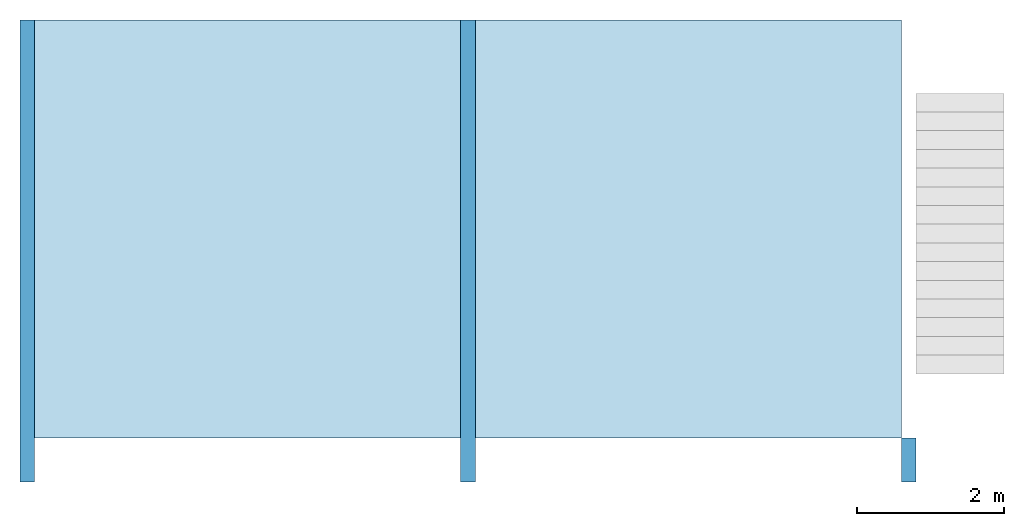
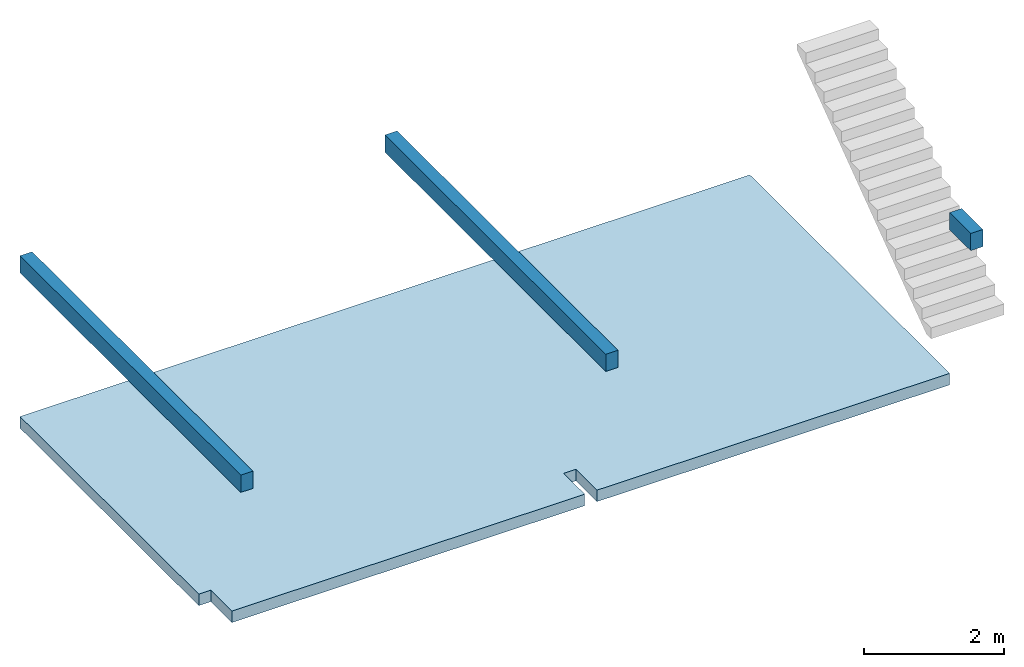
# One storey, part 1 of 2: 3 walls, 1 slab.
"""IFC2X3 building model written with IfcOpenShell, lengths in metres."""

from ifc_helpers import new_model, entity, si_unit, converted_unit, derived_unit, direction, frame, frame_2d, origin, place, context, subcontext, project, spatial, polyline, rectangle, outline, extrude, clip, bounded_halfspace, material, layer, layer_set, layer_usage, type_object, element, save


model = new_model("IFC2X3")

# Units and contexts
model_context = context("Model", 3, precision=1e-05, world=origin(), true_north=direction((6.12303176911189e-17, 1.0)))
context_of_model = context(None, 3, precision=1e-05, world=origin(), true_north=direction((6.12303176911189e-17, 1.0)))
body_context = subcontext(model_context, "Body", "Model", "MODEL_VIEW")
ifc_project = project(units=[si_unit("LENGTHUNIT", "METRE"), si_unit("AREAUNIT", "SQUARE_METRE"), si_unit("VOLUMEUNIT", "CUBIC_METRE"), converted_unit("PLANEANGLEUNIT", "DEGREE", entity("IfcRatioMeasure", 0.0174532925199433), si_unit("PLANEANGLEUNIT", "RADIAN"), dimensions=[0, 0, 0, 0, 0, 0, 0]), si_unit("MASSUNIT", "GRAM", prefix="KILO"), si_unit("TIMEUNIT", "SECOND"), si_unit("FREQUENCYUNIT", "HERTZ"), si_unit("THERMODYNAMICTEMPERATUREUNIT", "DEGREE_CELSIUS"), derived_unit("THERMALTRANSMITTANCEUNIT", [(si_unit("MASSUNIT", "GRAM", prefix="KILO"), 1), (si_unit("THERMODYNAMICTEMPERATUREUNIT", "KELVIN"), -1), (si_unit("TIMEUNIT", "SECOND"), -3)]), derived_unit("VOLUMETRICFLOWRATEUNIT", [(si_unit("LENGTHUNIT", "METRE"), 3), (si_unit("TIMEUNIT", "SECOND"), -1)]), si_unit("ELECTRICCURRENTUNIT", "AMPERE"), si_unit("ELECTRICVOLTAGEUNIT", "VOLT"), si_unit("POWERUNIT", "WATT"), si_unit("FORCEUNIT", "NEWTON", prefix="KILO"), si_unit("ILLUMINANCEUNIT", "LUX"), si_unit("LUMINOUSFLUXUNIT", "LUMEN"), si_unit("LUMINOUSINTENSITYUNIT", "CANDELA"), si_unit("PRESSUREUNIT", "PASCAL")], contexts=[model_context, context_of_model])

# Site, building, storey
site_placement = place(None, origin())
site = spatial("IfcSite", under=ifc_project, at=site_placement, Name="Default", CompositionType="ELEMENT")
building_placement = place(site_placement, origin())
building = spatial("IfcBuilding", under=site, at=building_placement, CompositionType="ELEMENT")
storey_placement = place(building_placement, origin())
storey = spatial("IfcBuildingStorey", under=building, at=storey_placement, Name="3 - Sous sol", CompositionType="ELEMENT", Elevation=0.0)

# Slab
ifc_material_1 = material(Name="Maçonnerie - Béton")
ifc_layer_1 = layer(ifc_material_1, 0.2)
ifc_layer_set_1 = layer_set([ifc_layer_1], Name="Sol:Dalle en béton - 200 mm")
ifc_layer_usage_1 = layer_usage(ifc_layer_set_1, "AXIS3", "POSITIVE", 0.0)
slab_placement = place(storey_placement, origin())
element("IfcSlab", 1, at=slab_placement, inside=storey, material=ifc_layer_usage_1, Name="Sol:Dalle en béton - 200 mm", ObjectType="Sol:Dalle en béton - 200 mm", PredefinedType="FLOOR", context=body_context, shape_type="SweptSolid", body=[
    extrude(outline(polyline([(-0.779999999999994, -4.888), (4.31999999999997, -4.888), (4.31999999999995, 7.132), (-1.37999999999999, 7.132), (-1.37999999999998, 1.322), (-0.779999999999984, 1.322), (-0.779999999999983, 1.122), (-1.38, 1.122), (-1.37999999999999, -4.688), (-0.779999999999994, -4.688), (-0.779999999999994, -4.888)])), frame((-0.285714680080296, 1.20831588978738, 0.0), z_axis=(0.0, 0.0, -1.0), x_axis=(0.0, 1.0, 0.0)), (0.0, 0.0, 1.0), 0.2),
])

# Walls
ifc_material_2 = material(Name="Mur par défaut")
ifc_layer_2 = layer(ifc_material_2, 0.2)
ifc_layer_set_2 = layer_set([ifc_layer_2], Name="Mur de base:Générique - Ext. 200 mm")
ifc_layer_usage_2 = layer_usage(ifc_layer_set_2, "AXIS2", "NEGATIVE", 0.1)
wall_type = type_object("IfcWallType", Name="Mur de base:Générique - Ext. 200 mm", PredefinedType="STANDARD", material=ifc_layer_set_2)
wall_1_placement = place(storey_placement, frame((-5.07371468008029, 5.52831588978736, 2.5), z_axis=(0.0, 0.0, 1.0), x_axis=(0.0, -1.0, 0.0)))
element("IfcWallStandardCase", 2, at=wall_1_placement, inside=storey, type_object=wall_type, material=ifc_layer_usage_2, Name="Mur de base:Générique - Ext. 200 mm", ObjectType="Mur de base:Générique - Ext. 200 mm", context=body_context, shape_type="Clipping", body=[
    clip(extrude(rectangle(XDim=6.29999999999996, YDim=0.2, at=frame_2d((3.14999999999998, -6.93889390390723e-17), x_axis=(-1.0, 0.0))), origin(), (0.0, 0.0, 1.0), 0.300000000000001), bounded_halfspace(frame((0.0, -0.0999999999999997, 0.3), z_axis=(0.0, 0.0, -1.0), x_axis=(-1.0, 0.0, 0.0)), True, frame((0.0, -0.0999999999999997, 0.3)), polyline([(0.0, 0.0), (5.69999999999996, 0.0), (6.29999999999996, 0.0), (6.29999999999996, 0.2), (0.0, 0.2), (0.0, 0.0)]))),
])
ifc_layer_usage_3 = layer_usage(ifc_layer_set_2, "AXIS2", "NEGATIVE", 0.1)
wall_2_placement = place(storey_placement, frame((0.93628531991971, 5.52831588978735, 2.5), z_axis=(0.0, 0.0, 1.0), x_axis=(0.0, -1.0, 0.0)))
element("IfcWallStandardCase", 3, at=wall_2_placement, inside=storey, type_object=wall_type, material=ifc_layer_usage_3, Name="Mur de base:Générique - Ext. 200 mm", ObjectType="Mur de base:Générique - Ext. 200 mm", context=body_context, shape_type="Clipping", body=[
    clip(extrude(rectangle(XDim=6.29999999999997, YDim=0.2, at=frame_2d((3.14999999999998, 0.0), x_axis=(-1.0, 0.0))), origin(), (0.0, 0.0, 1.0), 0.300000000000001), bounded_halfspace(frame((0.0, -0.1, 0.3), z_axis=(0.0, 0.0, -1.0), x_axis=(-1.0, 0.0, 0.0)), True, frame((0.0, -0.1, 0.3)), polyline([(0.0, 0.0), (6.29999999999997, 0.0), (6.29999999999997, 0.2), (0.0, 0.2), (0.0, 0.0)]))),
])
ifc_layer_usage_4 = layer_usage(ifc_layer_set_2, "AXIS2", "NEGATIVE", 0.1)
wall_3_placement = place(storey_placement, frame((6.94628531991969, -0.171684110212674, 2.5), z_axis=(0.0, 0.0, 1.0), x_axis=(0.0, -1.0, 0.0)))
element("IfcWallStandardCase", 4, at=wall_3_placement, inside=storey, type_object=wall_type, material=ifc_layer_usage_4, Name="Mur de base:Générique - Ext. 200 mm", ObjectType="Mur de base:Générique - Ext. 200 mm", context=body_context, shape_type="Clipping", body=[
    clip(extrude(rectangle(XDim=0.599999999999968, YDim=0.2, at=frame_2d((0.299999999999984, 0.0), x_axis=(-1.0, 0.0))), origin(), (0.0, 0.0, 1.0), 0.3), bounded_halfspace(frame((0.0, -0.1, 0.3), z_axis=(0.0, 0.0, -1.0), x_axis=(-1.0, 0.0, 0.0)), True, frame((0.0, -0.1, 0.3)), polyline([(0.0, 0.0), (0.599999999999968, 0.0), (0.599999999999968, 0.2), (0.0, 0.2), (0.0, 0.0)]))),
])

save(model, "model.ifc")
